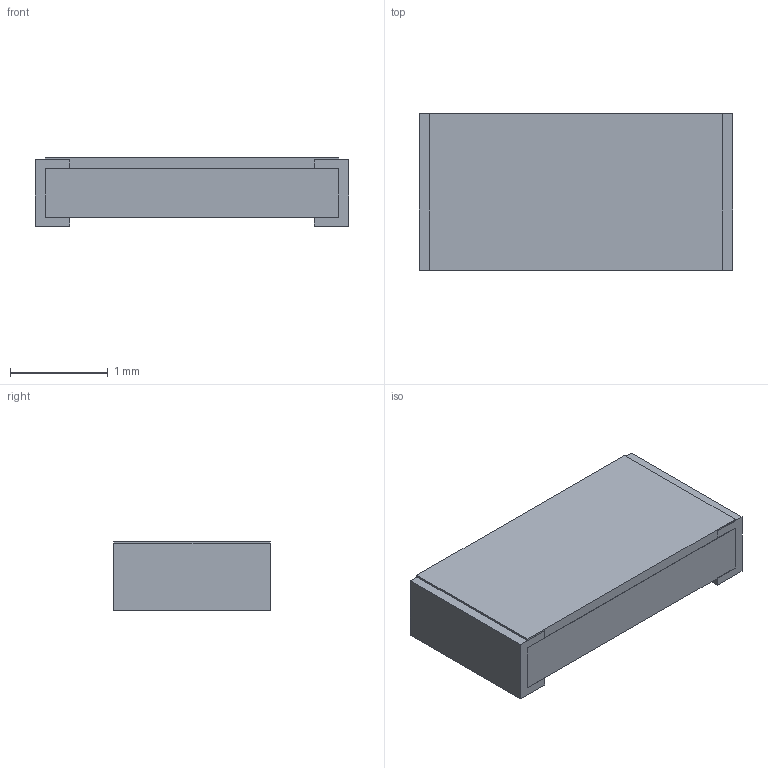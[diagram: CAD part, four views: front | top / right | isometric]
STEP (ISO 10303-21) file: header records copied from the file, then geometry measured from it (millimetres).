
FILE_DESCRIPTION(('STEP AP242'), '1');
FILE_NAME('Ð1-81-0,25', '', ('UNSPECIFIED'), ('UNSPECIFIED'), 'ASCON STEP Converter 1.6', 'ASCON Math Kernel', '');
FILE_SCHEMA(('AP242_MANAGED_MODEL_BASED_3D_ENGINEERING_MIM_LF { 1 0 10303 442 1 1 4 }'));
Length unit declared in the file: millimetre
Bounding box: 3.2 x 1.6 x 0.7 mm (x, y, z)
Volume: 3.2 mm3; surface area: 34.5 mm2
Topology: 4 solids, 5 shells, 55 faces, 135 edges, 90 vertices
Faces by surface type: plane 51, cylinder 4
Entity records: 2101 total; most frequent: CARTESIAN_POINT 281, ORIENTED_EDGE 270, DIRECTION 255, EDGE_CURVE 135, LINE 127, VECTOR 127, VERTEX_POINT 90, AXIS2_PLACEMENT_3D 64
